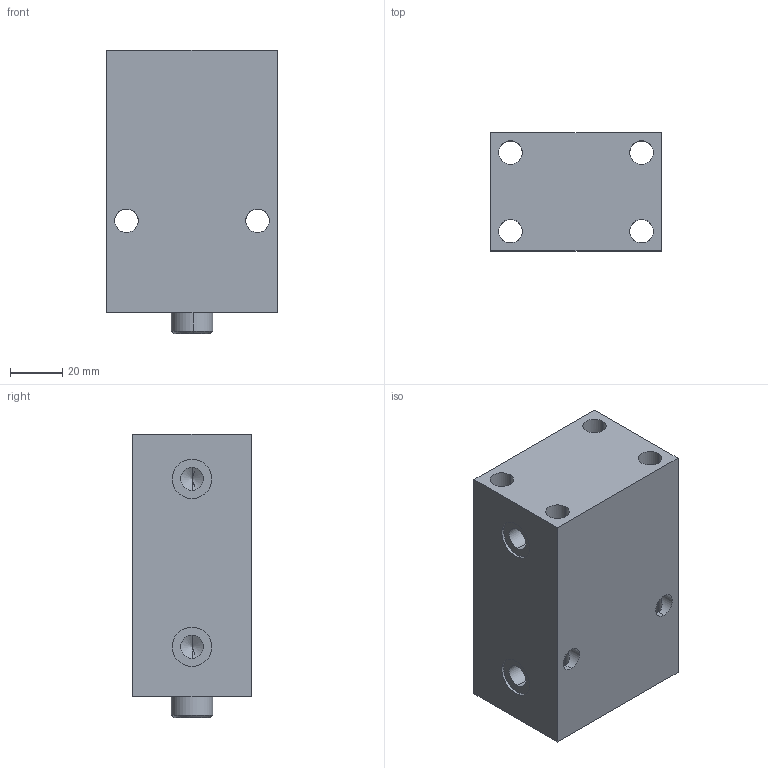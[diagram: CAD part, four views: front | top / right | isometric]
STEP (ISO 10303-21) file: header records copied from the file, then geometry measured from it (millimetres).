
FILE_DESCRIPTION (( 'STEP AP203' ), '1' );
FILE_NAME ('block cylinder B01C-150F.STEP', '2022-07-09T18:27:00', ( '' ), ( '' ), 'SwSTEP 2.0', 'SolidWorks 2017', '' );
FILE_SCHEMA (( 'CONFIG_CONTROL_DESIGN' ));
Length unit declared in the file: millimetre
Products named in the file (3): Body _150F; Piston _ 150F; block cylinder B01C-150F
Assembly tree (2 placements, depth 2):
  block cylinder B01C-150F
    Body _150F
    Piston _ 150F
Bounding box: 65 x 45 x 108 mm (x, y, z)
Volume: 267713.5 mm3; surface area: 46738.8 mm2
Topology: 2 solids, 2 shells, 230 faces, 598 edges, 385 vertices
Faces by surface type: plane 104, bspline 74, cylinder 44, cone 8
Entity records: 11675 total; most frequent: CARTESIAN_POINT 6294, ORIENTED_EDGE 1184, DIRECTION 792, EDGE_CURVE 592, VERTEX_POINT 385, LINE 354, VECTOR 354, EDGE_LOOP 269
